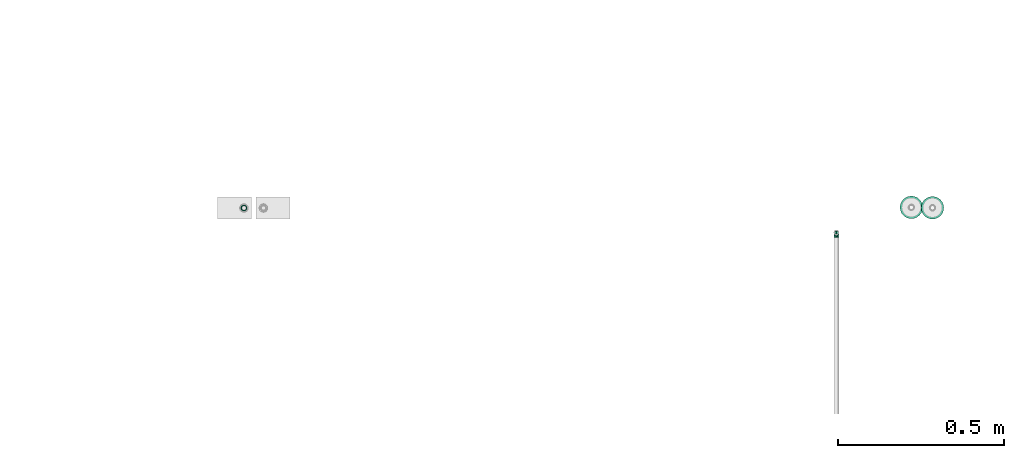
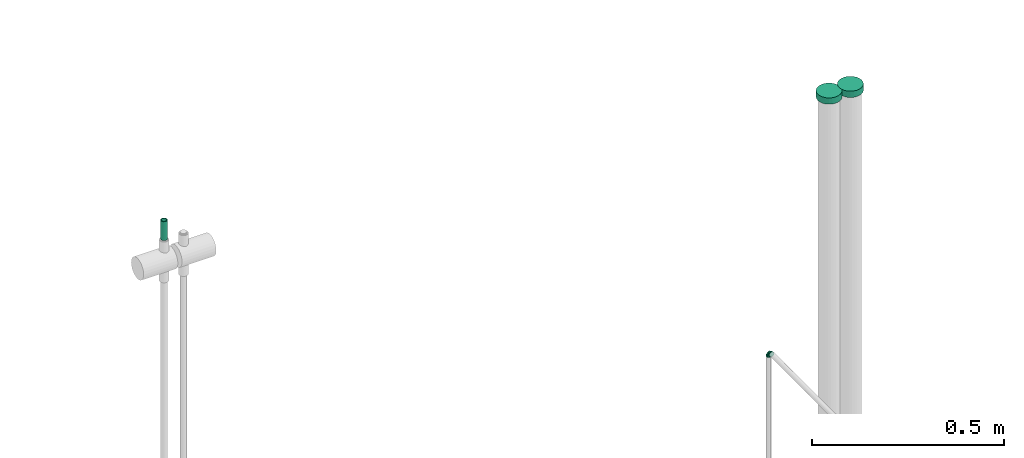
# One storey, part 10 of 18: 3 flow fittings, 1 flow segment.
"""IFC2X3 building model written with IfcOpenShell, lengths in millimetres."""

from ifc_helpers import new_model, entity, si_unit, converted_unit, derived_unit, direction, frame, origin_with_axes, origin_2d_with_axis, place, context, subcontext, project, spatial, hollow_circle, extrude, open_shell, surface_model, source, transform, mapped, type_object, element, save


model = new_model("IFC2X3")

# Units and contexts
model_context = context("Model", 3, precision=0.01, world=frame((0.0, 4.29681676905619e-09, 0.0)), true_north=direction((4.01073788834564e-13, 1.0)))
plan_context = context("Plan", 3, precision=0.01, world=frame((0.0, 4.29681676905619e-09, 0.0)), true_north=direction((4.01073788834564e-13, 1.0)))
body_context = subcontext(model_context, "Body", "Model", "MODEL_VIEW")
ifc_project = project(units=[converted_unit("PLANEANGLEUNIT", "DEGREE", entity("IfcPositiveLengthMeasure", 0.0174532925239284), si_unit("PLANEANGLEUNIT", "RADIAN"), dimensions=[0, 0, 0, 0, 0, 0, 0]), si_unit("AREAUNIT", "SQUARE_METRE"), si_unit("LENGTHUNIT", "METRE", prefix="MILLI"), si_unit("MASSUNIT", "GRAM", prefix="KILO"), si_unit("POWERUNIT", "WATT"), si_unit("PRESSUREUNIT", "PASCAL", prefix="KILO"), si_unit("FORCEUNIT", "NEWTON", prefix="KILO"), si_unit("ELECTRICVOLTAGEUNIT", "VOLT"), si_unit("ELECTRICCURRENTUNIT", "AMPERE"), si_unit("THERMODYNAMICTEMPERATUREUNIT", "DEGREE_CELSIUS"), si_unit("TIMEUNIT", "SECOND"), si_unit("VOLUMEUNIT", "CUBIC_METRE"), derived_unit("LINEARVELOCITYUNIT", [(si_unit("LENGTHUNIT", "METRE"), 1), (si_unit("TIMEUNIT", "SECOND"), -1)]), derived_unit("VOLUMETRICFLOWRATEUNIT", [(si_unit("VOLUMEUNIT", "CUBIC_METRE"), 1), (si_unit("TIMEUNIT", "SECOND"), -1)]), derived_unit("THERMALTRANSMITTANCEUNIT", [(si_unit("POWERUNIT", "WATT"), 1), (si_unit("THERMODYNAMICTEMPERATUREUNIT", "KELVIN"), -1), (si_unit("AREAUNIT", "SQUARE_METRE"), -1)]), derived_unit("SOUNDPRESSUREUNIT", [(si_unit("PRESSUREUNIT", "PASCAL"), 1)])], contexts=[model_context, plan_context])

# Site, building, storey
site_placement = place(None, frame((0.0, -4.29681676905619e-09, 0.0), z_axis=(0.0, 0.0, 1.0), x_axis=(1.0, 0.0, 0.0)))
site = spatial("IfcSite", under=ifc_project, at=site_placement, Name="ENGM", CompositionType="ELEMENT")
building_placement = place(site_placement, frame((0.0, 4.29681676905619e-09, 0.0), z_axis=(0.0, 0.0, 1.0), x_axis=(1.0, 0.0, 0.0)))
building = spatial("IfcBuilding", under=site, at=building_placement, Name="TI", CompositionType="ELEMENT")
storey_placement = place(building_placement, frame((0.0, 0.0, 204000.0), z_axis=(0.0, 0.0, 1.0), x_axis=(1.0, 0.0, 0.0)))
storey = spatial("IfcBuildingStorey", under=building, at=storey_placement, Name="Nivå D", CompositionType="ELEMENT", Elevation=204000.0)

# Flow fittings
pipe_fitting_type_1 = type_object("IfcPipeFittingType", Name="magi_pipe_cu_elbow_short_001", PredefinedType="BEND")
shared_shape_1 = source(origin_with_axes(), body_context, "Body", "SurfaceModel", [
    surface_model("IfcShellBasedSurfaceModel", [(-15.0, 0.0, -7.5), (-15.0, -6.49519, -3.75), (-15.0, 1.94114, -7.24444), (-15.0, 3.75, -6.49519), (-15.0, 5.3033, -5.3033), (-15.0, 7.24444, -1.94114), (-15.0, 6.49519, -3.75), (-15.0, -5.3033, -5.3033), (-15.0, -3.75, -6.49519), (-15.0, -1.94114, -7.24444), (-15.0, -7.24444, -1.94114), (-15.0, -7.5, 0.0), (-15.0, -6.49519, 3.75), (-15.0, 7.24444, 1.94114), (-15.0, 6.49519, 3.75), (-15.0, 3.75, 6.49519), (-15.0, 1.94114, 7.24444), (-15.0, 5.3033, 5.3033), (-15.0, -5.3033, 5.3033), (-15.0, -7.24444, 1.94114), (-15.0, -1.94114, 7.24444), (-15.0, 0.0, 7.5), (-15.0, -3.75, 6.49519), (-15.0, 7.5, 0.0), (-1.94114, 15.0, -7.24444), (6.49519, 15.0, -3.75), (0.0, 15.0, -7.5), (-5.3033, 15.0, -5.3033), (-3.75, 15.0, -6.49519), (-6.49519, 15.0, -3.75), (-7.24444, 15.0, -1.94114), (3.75, 15.0, -6.49519), (5.3033, 15.0, -5.3033), (1.94114, 15.0, -7.24444), (7.5, 15.0, 0.0), (7.24444, 15.0, -1.94114), (-7.5, 15.0, 0.0), (-7.24444, 15.0, 1.94114), (-6.49519, 15.0, 3.75), (-3.75, 15.0, 6.49519), (-1.94114, 15.0, 7.24444), (-5.3033, 15.0, 5.3033), (5.3033, 15.0, 5.3033), (6.49519, 15.0, 3.75), (7.24444, 15.0, 1.94114), (3.75, 15.0, 6.49519), (0.0, 15.0, 7.5), (1.94114, 15.0, 7.24444), (-13.40845, -7.07355, 0.0), (-8.7589, -2.47707, 6.60232), (-8.6338, -5.79418, 0.0), (-3.75, -4.48557, 0.0), (0.36779, -0.36779, 0.0), (2.42668, 1.69111, 0.0), (-2.25176, 0.98822, 6.3797), (-1.69111, -2.42668, 0.0), (-11.8169, -6.64709, 0.0), (-5.9304, 5.9304, 7.17811), (-4.11647, 8.02676, 7.20749), (2.47708, 8.7589, 6.60232), (1.67739, 4.87408, 5.99192), (4.48557, 3.75, 0.0), (-4.78013, -1.73268, 5.91836), (7.07355, 13.40845, 0.0), (6.64709, 11.8169, 0.0), (-8.02675, 4.11647, 7.20749), (-8.59835, 12.34835, 0.0), (-12.34835, 8.59835, 0.0), (-9.6967, 9.6967, 0.0), (5.79418, 8.6338, 0.0), (-8.7589, -2.47707, -6.60232), (-4.11647, 8.02676, -7.20749), (0.71542, 3.43733, -5.99192), (-2.23993, 1.78364, -6.69976), (2.47708, 8.7589, -6.60232), (-11.39207, 6.08032, -5.22727), (-7.08629, 1.82323, -7.49084), (-8.19523, 6.76007, -6.13545)], [open_shell([[[0, 1, 2]], [[3, 2, 4]], [[5, 6, 4]], [[4, 2, 1]], [[5, 4, 1]], [[7, 1, 8]], [[9, 8, 1]], [[10, 11, 1]], [[0, 9, 1]], [[11, 12, 1]], [[12, 5, 1]], [[13, 5, 12]], [[14, 13, 15]], [[13, 16, 15]], [[17, 14, 15]], [[16, 13, 12]], [[12, 18, 16]], [[12, 11, 19]], [[20, 21, 22]], [[18, 22, 21]], [[16, 18, 21]], [[13, 23, 5]], [[24, 25, 26]], [[27, 24, 28]], [[27, 29, 30]], [[25, 24, 27]], [[25, 27, 30]], [[31, 25, 32]], [[25, 31, 33]], [[25, 34, 35]], [[25, 33, 26]], [[30, 34, 25]], [[30, 36, 34]], [[36, 37, 38]], [[36, 38, 39]], [[40, 34, 39]], [[39, 38, 41]], [[40, 42, 34]], [[42, 43, 34]], [[44, 34, 43]], [[45, 46, 47]], [[45, 42, 40]], [[45, 40, 46]], [[39, 34, 36]], [[19, 48, 12]], [[49, 50, 51]], [[52, 53, 54]], [[54, 55, 52]], [[22, 18, 56]], [[12, 56, 18]], [[57, 54, 58]], [[22, 50, 20]], [[21, 20, 50]], [[59, 60, 61]], [[59, 58, 60]], [[55, 54, 62]], [[21, 50, 49]], [[21, 49, 16]], [[62, 49, 51]], [[62, 51, 55]], [[43, 63, 44]], [[49, 15, 16]], [[64, 63, 43]], [[13, 65, 23]], [[14, 17, 49]], [[54, 65, 62]], [[15, 49, 17]], [[57, 58, 66]], [[67, 57, 68]], [[53, 60, 54]], [[47, 46, 69]], [[69, 45, 47]], [[41, 59, 39]], [[40, 59, 46]], [[42, 45, 64]], [[54, 60, 58]], [[64, 45, 69]], [[61, 60, 53]], [[44, 63, 34]], [[59, 61, 69]], [[58, 36, 66]], [[22, 56, 50]], [[54, 57, 65]], [[49, 65, 14]], [[37, 36, 58]], [[64, 43, 42]], [[38, 37, 58]], [[14, 65, 13]], [[41, 38, 59]], [[19, 11, 48]], [[38, 58, 59]], [[48, 56, 12]], [[39, 59, 40]], [[59, 69, 46]], [[49, 62, 65]], [[57, 67, 65]], [[66, 68, 57]], [[67, 23, 65]], [[70, 50, 0]], [[71, 72, 73]], [[74, 71, 29]], [[70, 2, 3]], [[70, 51, 50]], [[35, 34, 63]], [[75, 4, 6]], [[75, 5, 23]], [[6, 5, 75]], [[51, 76, 55]], [[75, 23, 67]], [[70, 4, 75]], [[48, 11, 10]], [[8, 56, 7]], [[0, 50, 9]], [[51, 70, 76]], [[56, 8, 50]], [[8, 9, 50]], [[70, 0, 2]], [[66, 36, 71]], [[52, 72, 53]], [[4, 70, 3]], [[70, 75, 76]], [[73, 52, 55]], [[71, 68, 66]], [[61, 53, 72]], [[31, 64, 69]], [[30, 71, 36]], [[27, 74, 29]], [[56, 1, 7]], [[28, 24, 74]], [[63, 64, 25]], [[56, 48, 1]], [[28, 74, 27]], [[1, 48, 10]], [[26, 74, 24]], [[33, 69, 26]], [[29, 71, 30]], [[32, 64, 31]], [[69, 33, 31]], [[68, 71, 77]], [[74, 26, 69]], [[25, 35, 63]], [[61, 72, 74]], [[61, 74, 69]], [[67, 77, 75]], [[74, 72, 71]], [[25, 64, 32]], [[76, 77, 73]], [[75, 77, 76]], [[77, 71, 73]], [[55, 76, 73]], [[72, 52, 73]], [[77, 67, 68]]])]),
])
flow_fitting_placement = place(storey_placement, frame((592944.82673, 574922.17632, 6340.0), z_axis=(1.0, 0.0, 0.0), x_axis=(0.0, 0.0, 1.0)))
element("IfcFlowFitting", 1, at=flow_fitting_placement, inside=storey, type_object=pipe_fitting_type_1, Name="magi_pipe_cu_elbow_short_001", context=body_context, shape_type="MappedRepresentation", body=[
    mapped(shared_shape_1, transform((0.0, 0.0, 0.0), scale=1.0)),
])
pipe_fitting_type_2 = type_object("IfcPipeFittingType", Name="magi_pipe_cu_joint_001", PredefinedType="CONNECTOR")
shared_shape_2 = source(origin_with_axes(), body_context, "Body", "SurfaceModel", [
    surface_model("IfcShellBasedSurfaceModel", [(20.0, -6.36396, -6.36396), (20.0, -8.69333, -2.32937), (20.0, -7.79423, -4.5), (0.0, 0.0, -34.0), (0.0, -8.79985, -32.84148), (0.0, 8.79985, -32.84148), (0.0, 17.0, -29.44486), (0.0, 32.84148, -8.79985), (0.0, 29.44486, -17.0), (0.0, 24.04163, -24.04163), (0.0, -32.84148, -8.79985), (0.0, 8.79985, 32.84148), (0.0, -24.04163, -24.04163), (0.0, -29.44486, -17.0), (0.0, -17.0, -29.44486), (0.0, -34.0, 0.0), (0.0, -8.79985, 32.84148), (0.0, 32.84148, 8.79985), (0.0, 29.44486, 17.0), (0.0, 17.0, 29.44486), (0.0, 24.04163, 24.04163), (0.0, -24.04163, 24.04163), (0.0, -17.0, 29.44486), (0.0, -29.44486, 17.0), (0.0, -32.84148, 8.79985), (0.0, 0.0, 34.0), (0.0, 34.0, 0.0), (0.0, 4.5, -7.79423), (0.0, 2.32937, -8.69333), (0.0, 0.0, -9.0), (0.0, -9.0, 0.0), (0.0, -4.5, 7.79423), (0.0, 6.36396, -6.36396), (0.0, 7.79423, -4.5), (0.0, 9.0, 0.0), (0.0, -4.5, -7.79423), (0.0, -6.36396, -6.36396), (0.0, -2.32937, -8.69333), (0.0, -7.79423, -4.5), (0.0, -8.69333, -2.32937), (0.0, 8.69333, -2.32937), (0.0, 8.69333, 2.32937), (0.0, 2.32937, 8.69333), (0.0, 7.79423, 4.5), (0.0, 4.5, 7.79423), (0.0, 6.36396, 6.36396), (0.0, 0.0, 9.0), (0.0, -6.36396, 6.36396), (0.0, -7.79423, 4.5), (0.0, -8.69333, 2.32937), (0.0, -2.32937, 8.69333), (20.0, 8.79985, -32.84148), (20.0, -8.79985, -32.84148), (20.0, 0.0, -34.0), (20.0, 32.84148, -8.79985), (20.0, 17.0, -29.44486), (20.0, 24.04163, -24.04163), (20.0, 29.44486, -17.0), (20.0, 32.84148, 8.79985), (20.0, -32.84148, -8.79985), (20.0, -17.0, -29.44486), (20.0, -29.44486, -17.0), (20.0, -24.04163, -24.04163), (20.0, -34.0, 0.0), (20.0, 34.0, 0.0), (20.0, 8.79985, 32.84148), (20.0, 29.44486, 17.0), (20.0, 17.0, 29.44486), (20.0, 24.04163, 24.04163), (20.0, -8.79985, 32.84148), (20.0, -29.44486, 17.0), (20.0, -17.0, 29.44486), (20.0, -24.04163, 24.04163), (20.0, -32.84148, 8.79985), (20.0, 0.0, 34.0), (20.0, 0.0, -9.0), (20.0, 2.32937, -8.69333), (20.0, 4.5, -7.79423), (20.0, 7.79423, -4.5), (20.0, -2.32937, -8.69333), (20.0, 6.36396, -6.36396), (20.0, -8.69333, 2.32937), (20.0, -4.5, -7.79423), (20.0, -9.0, 0.0), (20.0, 8.69333, -2.32937), (20.0, 9.0, 0.0), (20.0, 8.69333, 2.32937), (20.0, 7.79423, 4.5), (20.0, 6.36396, 6.36396), (20.0, 4.5, 7.79423), (20.0, 2.32937, 8.69333), (20.0, 0.0, 9.0), (20.0, -7.79423, 4.5), (20.0, -4.5, 7.79423), (20.0, -6.36396, 6.36396), (20.0, -2.32937, 8.69333)], [open_shell([[[0, 1, 2]], [[3, 4, 5]], [[6, 5, 7]], [[7, 8, 9]], [[6, 7, 9]], [[10, 11, 5]], [[12, 13, 14]], [[4, 14, 13]], [[13, 10, 4]], [[10, 5, 4]], [[15, 16, 10]], [[17, 7, 5]], [[11, 17, 5]], [[18, 17, 11]], [[18, 11, 19]], [[20, 18, 19]], [[10, 16, 11]], [[21, 22, 23]], [[23, 15, 24]], [[23, 22, 15]], [[16, 15, 22]], [[16, 25, 11]], [[26, 7, 17]], [[27, 28, 29]], [[29, 30, 31]], [[27, 29, 31]], [[32, 27, 33]], [[34, 33, 27]], [[35, 36, 37]], [[36, 29, 37]], [[38, 39, 36]], [[30, 36, 39]], [[36, 30, 29]], [[34, 40, 33]], [[41, 34, 42]], [[43, 41, 42]], [[43, 42, 44]], [[45, 43, 44]], [[46, 42, 34]], [[47, 31, 48]], [[30, 49, 48]], [[50, 46, 31]], [[48, 31, 30]], [[27, 31, 46]], [[46, 34, 27]], [[51, 52, 53]], [[54, 51, 55]], [[56, 57, 54]], [[56, 54, 55]], [[51, 58, 59]], [[60, 61, 62]], [[61, 60, 52]], [[52, 59, 61]], [[52, 51, 59]], [[59, 58, 63]], [[51, 54, 64]], [[58, 65, 63]], [[65, 58, 66]], [[67, 65, 66]], [[67, 66, 68]], [[63, 65, 69]], [[70, 71, 72]], [[73, 63, 70]], [[63, 71, 70]], [[71, 63, 69]], [[65, 74, 69]], [[51, 64, 58]], [[73, 15, 63]], [[70, 24, 73]], [[21, 72, 71]], [[70, 72, 23]], [[22, 71, 69]], [[70, 23, 24]], [[24, 15, 73]], [[16, 74, 25]], [[16, 22, 69]], [[21, 71, 22]], [[21, 23, 72]], [[74, 16, 69]], [[67, 11, 65]], [[68, 19, 67]], [[18, 66, 58]], [[68, 66, 20]], [[17, 58, 64]], [[67, 19, 11]], [[11, 25, 65]], [[17, 18, 58]], [[20, 66, 18]], [[20, 19, 68]], [[26, 17, 64]], [[65, 25, 74]], [[54, 26, 64]], [[57, 7, 54]], [[9, 56, 55]], [[57, 56, 8]], [[6, 55, 51]], [[57, 8, 7]], [[7, 26, 54]], [[5, 53, 3]], [[5, 6, 51]], [[9, 55, 6]], [[9, 8, 56]], [[53, 5, 51]], [[60, 4, 52]], [[62, 14, 60]], [[13, 61, 59]], [[62, 61, 12]], [[10, 59, 63]], [[60, 14, 4]], [[4, 3, 52]], [[10, 13, 59]], [[12, 61, 13]], [[12, 14, 62]], [[15, 10, 63]], [[52, 3, 53]], [[75, 76, 77]], [[75, 77, 78]], [[75, 78, 79]], [[78, 77, 80]], [[81, 79, 78]], [[82, 1, 0]], [[83, 82, 79]], [[1, 82, 83]], [[83, 79, 81]], [[81, 78, 84]], [[85, 86, 87]], [[85, 87, 88]], [[88, 89, 90]], [[88, 90, 85]], [[85, 90, 91]], [[92, 93, 94]], [[93, 92, 81]], [[93, 91, 95]], [[81, 84, 93]], [[85, 91, 93]], [[93, 84, 85]], [[81, 30, 83]], [[92, 49, 81]], [[47, 94, 93]], [[92, 94, 48]], [[31, 93, 95]], [[92, 48, 49]], [[49, 30, 81]], [[50, 91, 46]], [[50, 31, 95]], [[47, 93, 31]], [[47, 48, 94]], [[91, 50, 95]], [[89, 42, 90]], [[88, 44, 89]], [[43, 87, 86]], [[88, 87, 45]], [[41, 86, 85]], [[89, 44, 42]], [[42, 46, 90]], [[41, 43, 86]], [[45, 87, 43]], [[45, 44, 88]], [[34, 41, 85]], [[90, 46, 91]], [[84, 34, 85]], [[78, 40, 84]], [[32, 80, 77]], [[78, 80, 33]], [[27, 77, 76]], [[78, 33, 40]], [[40, 34, 84]], [[28, 75, 29]], [[28, 27, 76]], [[32, 77, 27]], [[32, 33, 80]], [[75, 28, 76]], [[82, 37, 79]], [[0, 35, 82]], [[38, 2, 1]], [[0, 2, 36]], [[39, 1, 83]], [[82, 35, 37]], [[37, 29, 79]], [[39, 38, 1]], [[36, 2, 38]], [[36, 35, 0]], [[30, 39, 83]], [[79, 29, 75]]])]),
])
for number, where, z_axis, x_axis, name in (
    (2, (593233.48235, 574996.60269, 7046.0), (0.0, -1.0, 0.0), (0.0, 0.0, -1.0), "magi_pipe_cu_joint_001"),
    (3, (593170.00678, 574997.85556, 7046.0), (0.0, -1.0, 0.0), (0.0, 0.0, -1.0), "magi_pipe_cu_joint_001"),
):
    element("IfcFlowFitting", number, at=place(storey_placement, frame(where, z_axis=z_axis, x_axis=x_axis)), inside=storey, type_object=pipe_fitting_type_2, Name=name, context=body_context, shape_type="MappedRepresentation", body=[
        mapped(shared_shape_2, transform((0.0, 0.0, 0.0), scale=1.0)),
    ])

# Flow segment
pipe_segment_type = type_object("IfcPipeSegmentType", Name="Kobberrør", PredefinedType="RIGIDSEGMENT")
shared_shape_3 = source(origin_with_axes(), body_context, "Body", "SweptSolid", [
    extrude(hollow_circle(Radius=9.0, WallThickness=2.0, at=origin_2d_with_axis()), frame((0.0, 0.0, 0.0), z_axis=(1.0, 0.0, 0.0), x_axis=(0.0, 1.0, 0.0)), (0.0, 0.0, 1.0), 60.0),
])
flow_segment_placement = place(storey_placement, frame((591165.27303, 574995.92031, 7277.24650000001), z_axis=(0.0, 1.0, 0.0), x_axis=(0.0, 0.0, 1.0)))
element("IfcFlowSegment", 4, at=flow_segment_placement, inside=storey, type_object=pipe_segment_type, Name="Kobberrør", context=body_context, shape_type="MappedRepresentation", body=[
    mapped(shared_shape_3, transform((0.0, 0.0, 0.0), scale=1.0)),
])

save(model, "model.ifc")
